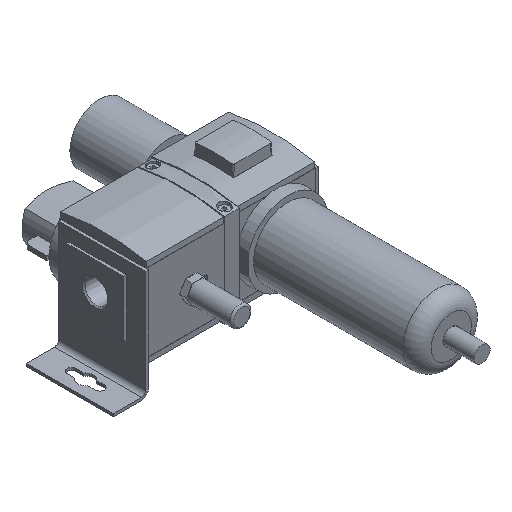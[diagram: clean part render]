
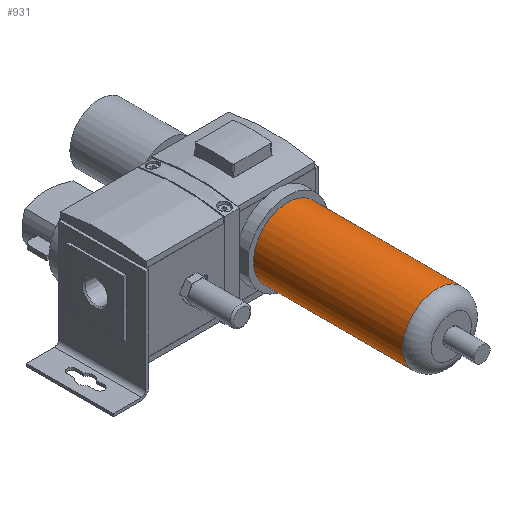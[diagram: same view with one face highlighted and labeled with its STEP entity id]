
A CAD part, isometric view. The second image highlights one B-rep face of the part: STEP entity #931.
In plain terms, the highlighted cylindrical face has radius 24.25 mm (diameter 48.5 mm), a full revolution.
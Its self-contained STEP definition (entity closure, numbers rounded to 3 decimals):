
#931 = ADVANCED_FACE( '', ( #2174, #2175 ), #2176, .T. );
#2174 = FACE_OUTER_BOUND( '', #3967, .T. );
#2175 = FACE_OUTER_BOUND( '', #3968, .T. );
#2176 = CYLINDRICAL_SURFACE( '', #3969, 24.25 );
#3967 = EDGE_LOOP( '', ( #5971 ) );
#3968 = EDGE_LOOP( '', ( #5972 ) );
#3969 = AXIS2_PLACEMENT_3D( '', #5973, #5974, #5975 );
#5971 = ORIENTED_EDGE( '', *, *, #10632, .F. );
#5972 = ORIENTED_EDGE( '', *, *, #10633, .T. );
#5973 = CARTESIAN_POINT( '', ( 0., -115.5, 0. ) );
#5974 = DIRECTION( '', ( 0., 1., 0. ) );
#5975 = DIRECTION( '', ( 0., 0., -1. ) );
#10632 = EDGE_CURVE( '', #12643, #12643, #12644, .T. );
#10633 = EDGE_CURVE( '', #12645, #12645, #12646, .T. );
#12643 = VERTEX_POINT( '', #15507 );
#12644 = CIRCLE( '', #15508, 24.25 );
#12645 = VERTEX_POINT( '', #15509 );
#12646 = CIRCLE( '', #15510, 24.25 );
#15507 = CARTESIAN_POINT( '', ( 0., -105.5, -24.25 ) );
#15508 = AXIS2_PLACEMENT_3D( '', #19316, #19317, #19318 );
#15509 = CARTESIAN_POINT( '', ( 0., 0., -24.25 ) );
#15510 = AXIS2_PLACEMENT_3D( '', #19319, #19320, #19321 );
#19316 = CARTESIAN_POINT( '', ( 0., -105.5, 0. ) );
#19317 = DIRECTION( '', ( 0., -1., 0. ) );
#19318 = DIRECTION( '', ( 0., 0., -1. ) );
#19319 = CARTESIAN_POINT( '', ( 0., 0., 0. ) );
#19320 = DIRECTION( '', ( 0., -1., 0. ) );
#19321 = DIRECTION( '', ( 0., 0., -1. ) );
